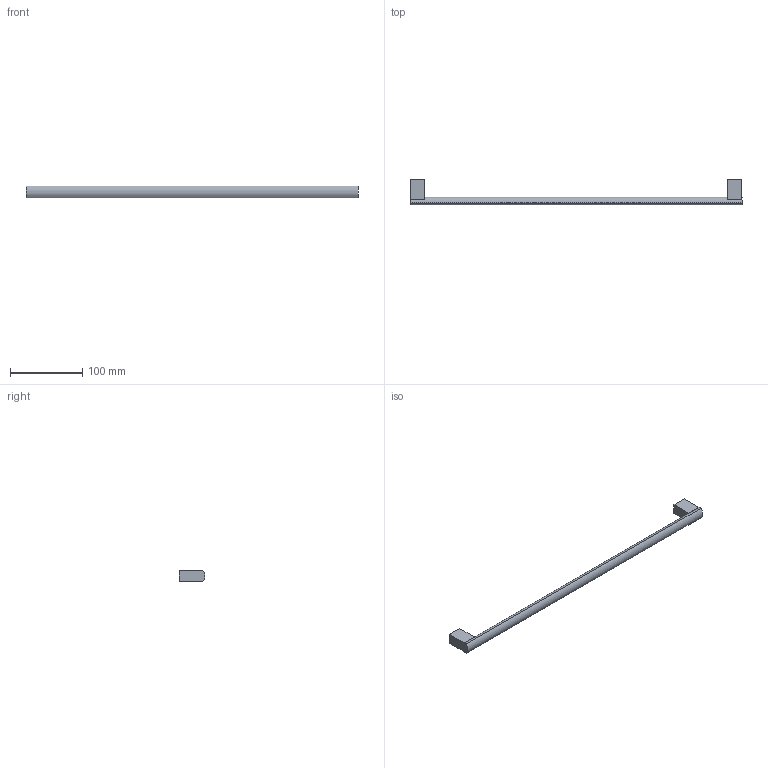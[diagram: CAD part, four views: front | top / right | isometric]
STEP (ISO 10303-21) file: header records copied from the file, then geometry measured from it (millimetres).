
FILE_DESCRIPTION( ( 'STEP AP214' ), '1' );
FILE_NAME( 'D:/Shahbaz D&D/Task/Check and correct handles with 3 drill sockets/Clivia/115211.stp', '2023-02-20T10:55:05', ( '' ), ( '' ), ' ', 'PARTsolutions', ' ' );
FILE_SCHEMA( ( 'AUTOMOTIVE_DESIGN { 1 0 10303 214 1 1 1 1 }' ) );
Length unit declared in the file: millimetre
Products named in the file (1): _115211
Bounding box: 460 x 35.96 x 16 mm (x, y, z)
Volume: 76997.1 mm3; surface area: 23939 mm2
Topology: 1 solids, 1 shells, 21 faces, 48 edges, 32 vertices
Faces by surface type: plane 17, cylinder 4
Full cylindrical faces by diameter (mm): 4 x2
Entity records: 768 total; most frequent: DIRECTION 102, CARTESIAN_POINT 100, ORIENTED_EDGE 92, EDGE_CURVE 46, AXIS2_PLACEMENT_3D 34, LINE 34, VECTOR 34, VERTEX_POINT 32
